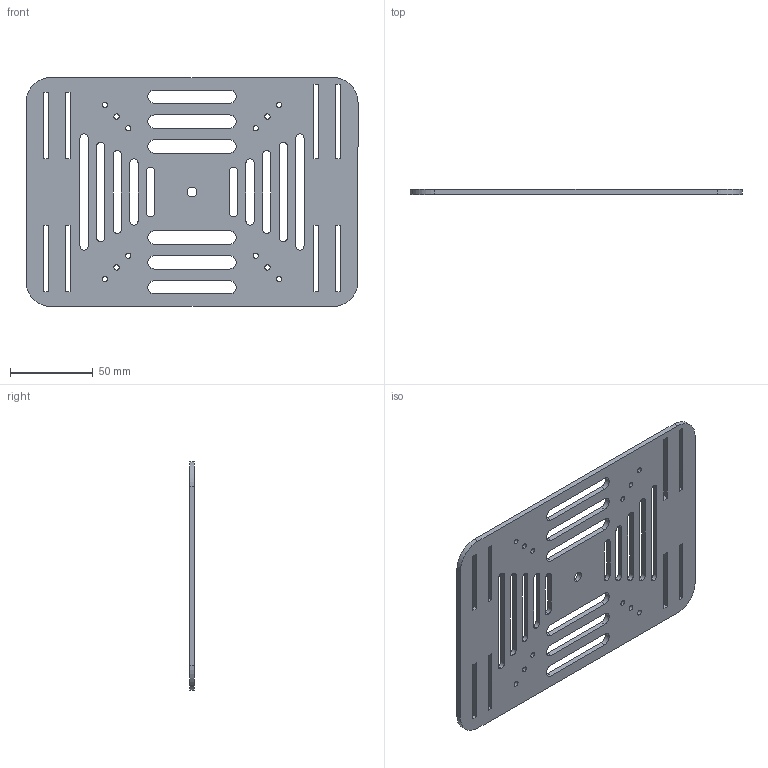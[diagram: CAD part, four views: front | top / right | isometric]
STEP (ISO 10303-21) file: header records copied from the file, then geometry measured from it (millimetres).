
FILE_DESCRIPTION (( 'STEP AP214' ), '1' );
FILE_NAME ('4-电池板（改）.STEP', '2026-01-20T02:07:23', ( '' ), ( '' ), 'SwSTEP 2.0', 'SolidWorks 2024', '' );
FILE_SCHEMA (( 'AUTOMOTIVE_DESIGN' ));
Length unit declared in the file: millimetre
Products named in the file (1): 4-电池板（改）
Bounding box: 200 x 3 x 137.89 mm (x, y, z)
Volume: 64022.1 mm3; surface area: 52433 mm2
Topology: 1 solids, 1 shells, 142 faces, 420 edges, 280 vertices
Faces by surface type: cylinder 72, plane 70
Entity records: 4959 total; most frequent: DIRECTION 850, CARTESIAN_POINT 843, ORIENTED_EDGE 840, EDGE_CURVE 420, AXIS2_PLACEMENT_3D 287, VERTEX_POINT 280, LINE 276, VECTOR 276
